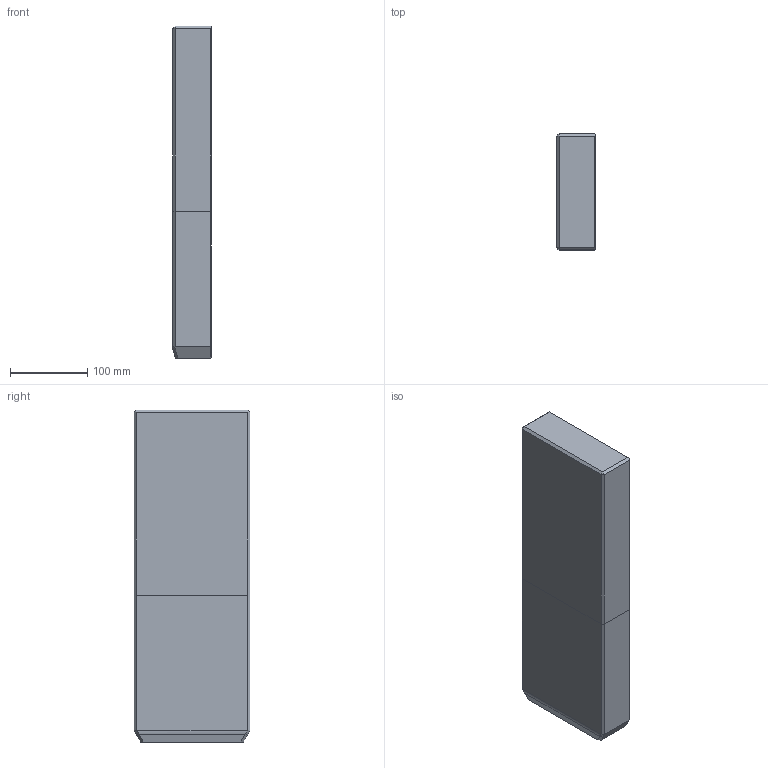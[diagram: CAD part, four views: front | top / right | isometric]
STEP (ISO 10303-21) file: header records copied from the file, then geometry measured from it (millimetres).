
FILE_DESCRIPTION((''),'2;1');
FILE_NAME('','2010-08-30T18:07:29+09:00',('misumi'),(''),'M/STEP i/f 1R2-14','CADmeister v5.1','');
FILE_SCHEMA(('AUTOMOTIVE_DESIGN'));
Length unit declared in the file: millimetre
Products named in the file (1): OGG150-430
Bounding box: 50 x 150 x 430 mm (x, y, z)
Volume: 3206684.1 mm3; surface area: 184159.2 mm2
Topology: 1 solids, 1 shells, 36 faces, 82 edges, 49 vertices
Faces by surface type: plane 28, bspline 5, cylinder 3
Entity records: 1664 total; most frequent: CARTESIAN_POINT 819, ORIENTED_EDGE 164, DIRECTION 134, EDGE_CURVE 82, LINE 62, VECTOR 62, VERTEX_POINT 49, EDGE_LOOP 37
